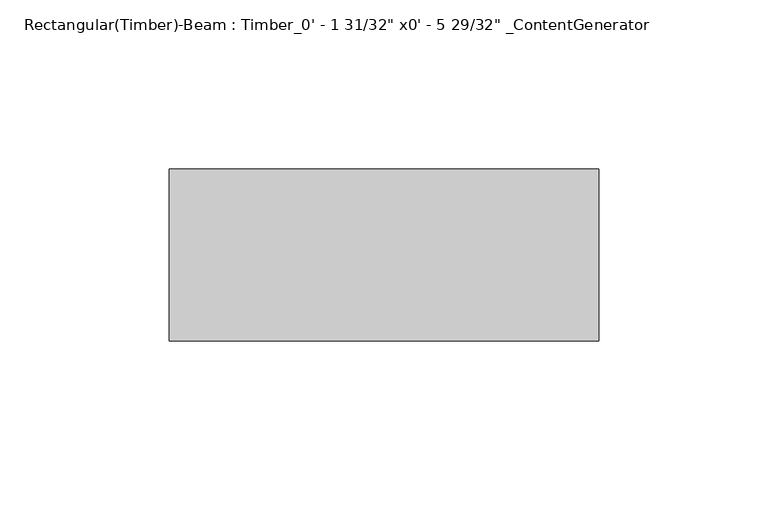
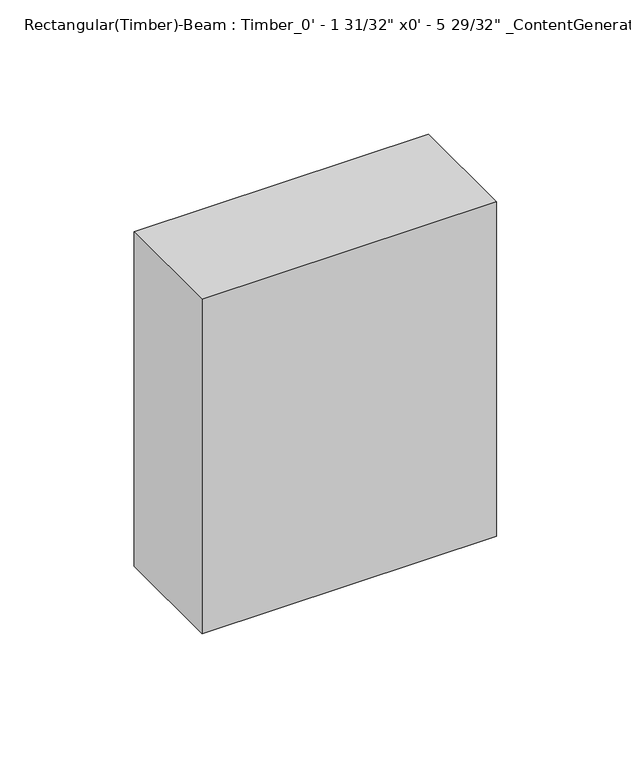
"""IFC4 building model written with IfcOpenShell, lengths in millimetres: beam geometry."""

from ifc_helpers import new_model, si_unit, frame, origin, place, context, project, spatial, polyline, outline, extrude, source, transform, mapped, element, save


def beam_3d62fdea(model_context):
    return source(origin(), model_context, "Body", "SweptSolid", [
        extrude(outline(polyline([(76.2049994, 25.4), (76.2049994, -25.4), (-50.805, -25.4), (-50.805, 25.4), (76.2049994, 25.4)])), frame((0.0, 0.0, -76.2), z_axis=(0.0, 0.0, 1.0), x_axis=(1.0, 0.0, 0.0)), (0.0, 0.0, 1.0), 152.4),
    ])


if __name__ == "__main__":
    model = new_model("IFC4")
    model_context = context("Model", 3, world=origin())
    ifc_project = project(units=[si_unit("LENGTHUNIT", "METRE", prefix="MILLI")], contexts=[model_context])
    site = spatial("IfcSite", under=ifc_project)
    building = spatial("IfcBuilding", under=site)
    placement = place(None, origin())
    beam_shape = beam_3d62fdea(model_context)
    element("IfcBeam", 1, ObjectType="Rectangular(Timber)-Beam : Timber_0' - 1 31/32\" x0' - 5 29/32\" _ContentGenerator", at=placement, inside=building, context=model_context, shape_type="MappedRepresentation", body=[
        mapped(beam_shape, transform((0.0, 0.0, 0.0), x_axis=(1.0, 0.0, 0.0), y_axis=(0.0, 1.0, 0.0), z_axis=(0.0, 0.0, 1.0))),
    ])
    save(model, "model.ifc")
